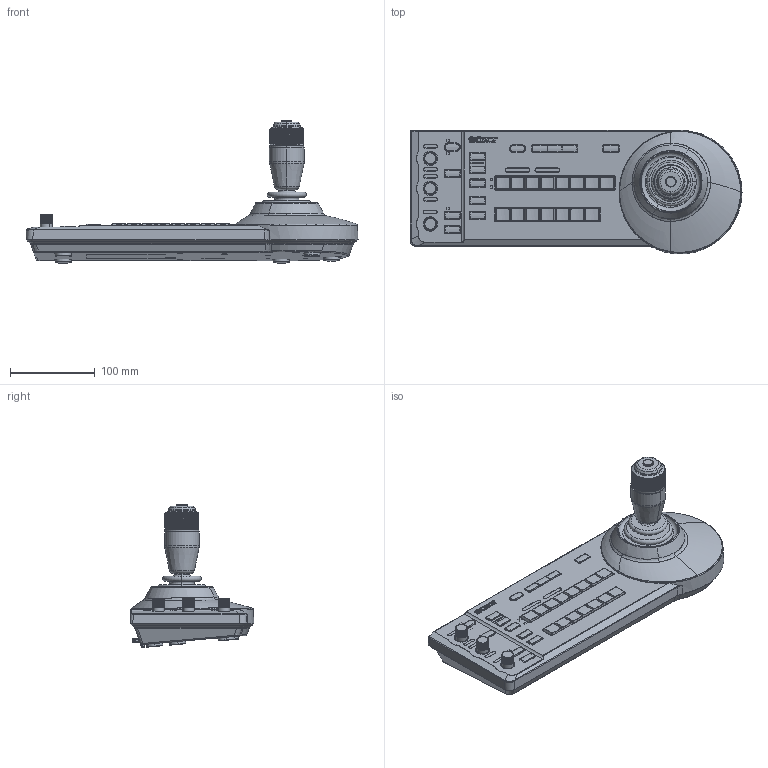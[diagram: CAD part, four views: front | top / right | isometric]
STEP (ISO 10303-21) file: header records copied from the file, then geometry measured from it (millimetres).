
FILE_DESCRIPTION(/* description */ (''),/* implementation_level */ '2;1');
FILE_NAME(/* name */ 'rm-ip10_00.stp',/* time_stamp */ '2020-03-06T18:29:58+09:00',/* author */ (''),/* organization */ (''),/* preprocessor_version */ 'ST-DEVELOPER v16.7',/* originating_system */ 'SIEMENS PLM Software NX 12.0',/* authorisation */ '');
FILE_SCHEMA (('AUTOMOTIVE_DESIGN { 1 0 10303 214 3 1 1 1 }'));
Products named in the file (1): rm-ip10_00_001
Bounding box: 391.27 x 145.56 x 168.17 mm (x, y, z)
Surface area: 290777.3 mm2 (no closed solid volume)
Topology: 0 solids, 3629 shells, 3629 faces, 26240 edges, 30516 vertices
Faces by surface type: plane 1938, cylinder 900, bspline 228, extrusion 218, torus 169, cone 153, sphere 23
Entity records: 350810 total; most frequent: CARTESIAN_POINT 139250, DIRECTION 28668, ORIENTED_EDGE 22090, VERTEX_POINT 22090, EDGE_CURVE 22090, VECTOR 14460, LINE 14242, B_SPLINE_CURVE_WITH_KNOTS 8268
